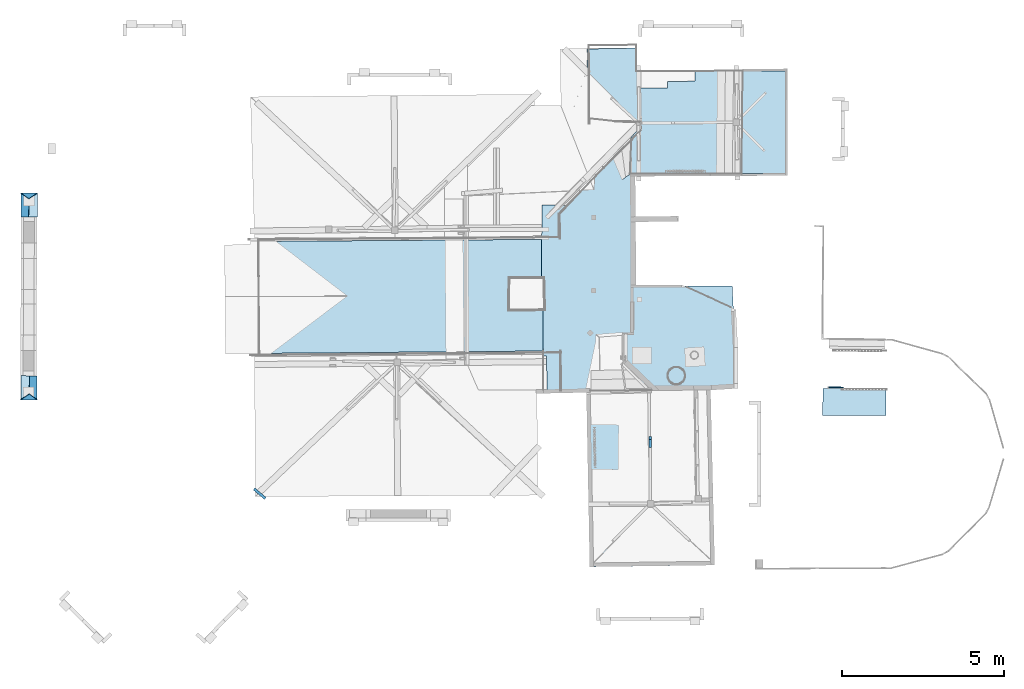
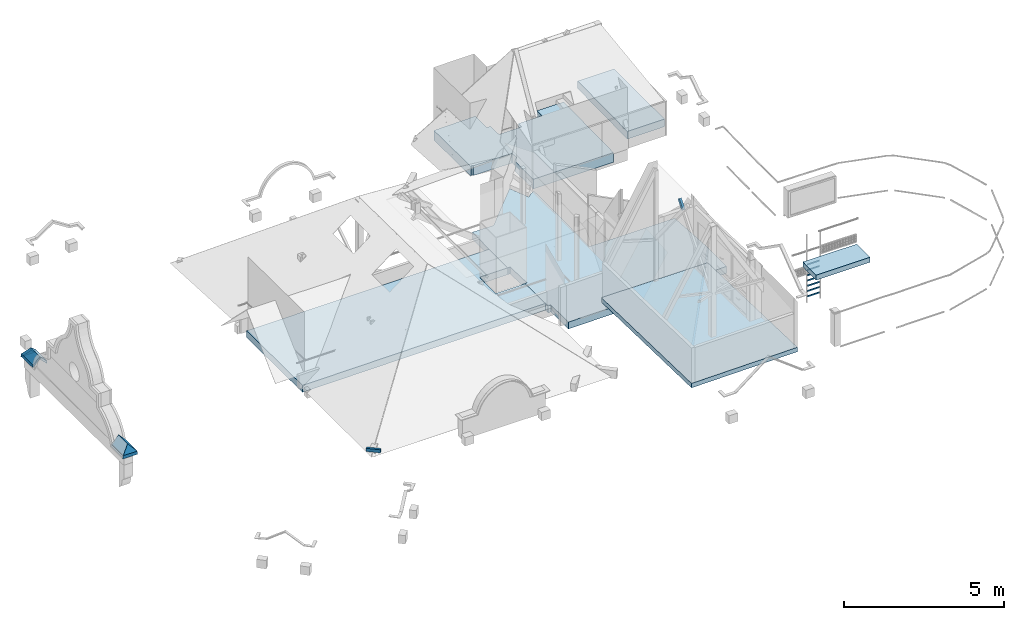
# One storey, part 6 of 39: 12 slabs, 9 beams, 2 elements without a shape of their own.
"""IFC2X3 building model written with IfcOpenShell, lengths in centimetres."""

import ifcopenshell
import ifcopenshell.guid

model = None  # the IFC model being written
_history = None  # IfcOwnerHistory: only IFC2X3 demands one
_inside = {}  # id of a spatial element -> (the spatial element, [elements in it])
_under = {}  # id of a project, library or spatial element -> (it, [spatial elements below it])
_declared = {}  # id of a project -> (the project, [libraries it declares])
_typed = {}  # id of a type object -> (the type object, [elements of that type])
_made_of = {}  # id of a material, layer set ... -> (it, [elements and type objects made of it])


def new_model(schema):
    """Start an empty IFC model of exactly this schema.

    Asked for "IFC4X3", IfcOpenShell would pick the latest addendum, in which some entities
    have other attributes; the version numbers below select the first issue.
    IFC2X3 requires an IfcOwnerHistory on every rooted entity: one is made here for all.
    """
    global model, _history
    if schema == "IFC4X3":
        model = ifcopenshell.file(schema_version=(4, 3, 0, 0))
    else:
        model = ifcopenshell.file(schema=schema)
    _inside.clear()
    _under.clear()
    _declared.clear()
    _typed.clear()
    _made_of.clear()
    _history = None
    if model.schema == "IFC2X3":
        org = make("IfcOrganization", Name="unknown")
        user = make(
            "IfcPersonAndOrganization",
            ThePerson=make("IfcPerson", FamilyName="unknown"),
            TheOrganization=org,
        )
        app = make(
            "IfcApplication",
            ApplicationDeveloper=org,
            Version="unknown",
            ApplicationFullName="unknown",
            ApplicationIdentifier="unknown",
        )
        _history = make(
            "IfcOwnerHistory",
            OwningUser=user,
            OwningApplication=app,
            ChangeAction="ADDED",
            CreationDate=0,
        )
    return model


def make(cls, **values):
    """One entity of the class cls with the attributes given. An attribute that is None is left unset."""
    return model.create_entity(
        cls, **{name: value for name, value in values.items() if value is not None}
    )


def entity(cls, *values):
    """Any entity or typed value of the class cls, its attributes in the order of the schema. None: left unset."""
    e = model.create_entity(cls)
    for i, value in enumerate(values):
        if value is not None:
            e[i] = value
    return e


def rooted(cls, **values):
    """An entity with a GlobalId (a new one), such as an element, a storey or a relation."""
    return make(cls, GlobalId=ifcopenshell.guid.new(), OwnerHistory=_history, **values)


def si_unit(unit_type, name, prefix=None):
    """IfcSIUnit, for example si_unit("LENGTHUNIT", "METRE", prefix="MILLI")."""
    return make("IfcSIUnit", UnitType=unit_type, Prefix=prefix, Name=name)


def converted_unit(unit_type, name, factor, base, dimensions=None, offset=None):
    """IfcConversionBasedUnit, such as the inch: factor (a typed value) times the base unit."""
    return make(
        "IfcConversionBasedUnit"
        if offset is None
        else "IfcConversionBasedUnitWithOffset",
        ConversionOffset=offset,
        Dimensions=None
        if dimensions is None
        else entity("IfcDimensionalExponents", *dimensions),
        UnitType=unit_type,
        Name=name,
        ConversionFactor=make(
            "IfcMeasureWithUnit", ValueComponent=factor, UnitComponent=base
        ),
    )


def assignment(units):
    """IfcUnitAssignment: the units of a project."""
    return None if units is None else make("IfcUnitAssignment", Units=units)


def point(xyz):
    """IfcCartesianPoint."""
    return None if xyz is None else make("IfcCartesianPoint", Coordinates=xyz)


def direction(xyz):
    """IfcDirection."""
    return None if xyz is None else make("IfcDirection", DirectionRatios=xyz)


def frame(location, z_axis=None, x_axis=None):
    """IfcAxis2Placement3D, a coordinate frame: its origin and axes. An axis left out is left unset."""
    return make(
        "IfcAxis2Placement3D",
        Location=point(location),
        Axis=direction(z_axis),
        RefDirection=direction(x_axis),
    )


def frame_2d(location, x_axis=None):
    """IfcAxis2Placement2D, a coordinate frame in the plane: its origin and x axis."""
    return make(
        "IfcAxis2Placement2D", Location=point(location), RefDirection=direction(x_axis)
    )


def origin():
    """The frame at (0, 0, 0) with its axes left unset."""
    return frame((0.0, 0.0, 0.0))


def origin_with_axes():
    """The frame at (0, 0, 0) with the z axis (0, 0, 1) and the x axis (1, 0, 0) written out."""
    return frame((0.0, 0.0, 0.0), z_axis=(0.0, 0.0, 1.0), x_axis=(1.0, 0.0, 0.0))


def origin_2d_with_axis():
    """The frame at (0, 0) in the plane with the x axis (1, 0) written out."""
    return frame_2d((0.0, 0.0), x_axis=(1.0, 0.0))


def place(relative_to, where):
    """IfcLocalPlacement: puts the frame where relative to a parent placement (None: the world)."""
    return make(
        "IfcLocalPlacement", PlacementRelTo=relative_to, RelativePlacement=where
    )


def context(
    kind, dimensions, precision=None, world=None, true_north=None, identifier=None
):
    """IfcGeometricRepresentationContext, for example the 3D "Model" context."""
    return make(
        "IfcGeometricRepresentationContext",
        ContextIdentifier=identifier,
        ContextType=kind,
        CoordinateSpaceDimension=dimensions,
        Precision=precision,
        WorldCoordinateSystem=world,
        TrueNorth=true_north,
    )


def subcontext(parent, identifier, kind, view, scale=None):
    """IfcGeometricRepresentationSubContext, for example "Body" below "Model"."""
    return make(
        "IfcGeometricRepresentationSubContext",
        ContextIdentifier=identifier,
        ContextType=kind,
        ParentContext=parent,
        TargetScale=scale,
        TargetView=view,
    )


def project(units=None, contexts=None):
    """IfcProject with its units and contexts."""
    return rooted(
        "IfcProject",
        Name="project",
        RepresentationContexts=contexts,
        UnitsInContext=assignment(units),
    )


def spatial(cls, under=None, at=None, **own):
    """A site, building, storey or space (cls), placed at a placement, below another one or the project."""
    s = rooted(cls, ObjectPlacement=at, **own)
    if under is not None:
        _under.setdefault(under.id(), (under, []))[1].append(s)
    return s


def polyline(points):
    """IfcPolyline through the points."""
    return make("IfcPolyline", Points=[point(p) for p in points])


def circle_curve(where, radius):
    """IfcCircle in the frame where."""
    return make("IfcCircle", Position=where, Radius=radius)


def trimmed(basis, trim1, trim2, sense, master):
    """IfcTrimmedCurve: the piece of a basis curve between two trims."""
    return make(
        "IfcTrimmedCurve",
        BasisCurve=basis,
        Trim1=trim1,
        Trim2=trim2,
        SenseAgreement=sense,
        MasterRepresentation=master,
    )


def segment(curve, same_sense, transition):
    """IfcCompositeCurveSegment."""
    return make(
        "IfcCompositeCurveSegment",
        Transition=transition,
        SameSense=same_sense,
        ParentCurve=curve,
    )


def composite_curve(segments, self_intersect=None):
    """IfcCompositeCurve: segments joined end to end."""
    return make("IfcCompositeCurve", Segments=segments, SelfIntersect=self_intersect)


def profile(cls, at=None, kind="AREA", **sizes):
    """A parametric profile (cls). Its sizes go by their IFC names, for example OverallWidth=200.0."""
    return make(cls, ProfileType=kind, Position=at, **sizes)


def rectangle(**sizes):
    """IfcRectangleProfileDef."""
    return profile("IfcRectangleProfileDef", **sizes)


def hollow_rectangle(**sizes):
    """IfcRectangleHollowProfileDef."""
    return profile("IfcRectangleHollowProfileDef", **sizes)


def outline(outer, holes=None, kind="AREA"):
    """IfcArbitraryClosedProfileDef: a profile drawn as a closed curve; with holes, ...WithVoids."""
    if holes is None:
        return make("IfcArbitraryClosedProfileDef", ProfileType=kind, OuterCurve=outer)
    return make(
        "IfcArbitraryProfileDefWithVoids",
        ProfileType=kind,
        OuterCurve=outer,
        InnerCurves=holes,
    )


def extrude(swept, where, along, depth):
    """IfcExtrudedAreaSolid: the profile swept, set in the frame where, extruded along a direction by depth."""
    return make(
        "IfcExtrudedAreaSolid",
        SweptArea=swept,
        Position=where,
        ExtrudedDirection=direction(along),
        Depth=depth,
    )


def faces_of(points, faces, orient=None, outer=None):
    """IfcFace entities. A face is a list of loops; a loop is a list of indices into points, from 0.

    orient and outer hold one flag for each loop. By default every Orientation is true, the
    first loop of a face is its IfcFaceOuterBound and the others are IfcFaceBound.
    """
    made = []
    for i, loops in enumerate(faces):
        bounds = []
        for j, loop in enumerate(loops):
            is_outer = j == 0 if outer is None else outer[i][j]
            bounds.append(
                make(
                    "IfcFaceOuterBound" if is_outer else "IfcFaceBound",
                    Bound=make("IfcPolyLoop", Polygon=[points[k] for k in loop]),
                    Orientation=True if orient is None else orient[i][j],
                )
            )
        made.append(make("IfcFace", Bounds=bounds))
    return made


def faceted_brep(points, faces, orient=None, outer=None, voids=None):
    """IfcFacetedBrep: a solid bounded by flat faces; with voids (closed shells), ...WithVoids."""
    shared = [point(p) for p in points]
    hull = make("IfcClosedShell", CfsFaces=faces_of(shared, faces, orient, outer))
    if voids is None:
        return make("IfcFacetedBrep", Outer=hull)
    return make(
        "IfcFacetedBrepWithVoids",
        Outer=hull,
        Voids=[
            make(cls, CfsFaces=faces_of(shared, fs, o, b)) for cls, fs, o, b in voids
        ],
    )


def shape(context_of_items, identifier, shape_type, items):
    """IfcShapeRepresentation: the items that make up one representation, for example the "Body"."""
    return make(
        "IfcShapeRepresentation",
        ContextOfItems=context_of_items,
        RepresentationIdentifier=identifier,
        RepresentationType=shape_type,
        Items=items,
    )


def source(mapping_origin, context_of_items, identifier, shape_type, items):
    """IfcRepresentationMap: a shape defined once, which mapped items show again and again."""
    return make(
        "IfcRepresentationMap",
        MappingOrigin=mapping_origin,
        MappedRepresentation=shape(context_of_items, identifier, shape_type, items),
    )


def transform(
    local_origin,
    x_axis=None,
    y_axis=None,
    z_axis=None,
    scale=None,
    scale2=None,
    scale3=None,
    uniform=True,
):
    """IfcCartesianTransformationOperator3D, or its non-uniform kind. x_axis, y_axis, z_axis: its Axis1, 2, 3."""
    if uniform:
        return make(
            "IfcCartesianTransformationOperator3D",
            Axis1=direction(x_axis),
            Axis2=direction(y_axis),
            LocalOrigin=point(local_origin),
            Scale=scale,
            Axis3=direction(z_axis),
        )
    return make(
        "IfcCartesianTransformationOperator3DnonUniform",
        Axis1=direction(x_axis),
        Axis2=direction(y_axis),
        LocalOrigin=point(local_origin),
        Scale=scale,
        Axis3=direction(z_axis),
        Scale2=scale2,
        Scale3=scale3,
    )


def mapped(mapping_source, mapping_target):
    """IfcMappedItem: shows the shape of a source again, moved by a transform."""
    return make(
        "IfcMappedItem", MappingSource=mapping_source, MappingTarget=mapping_target
    )


def material(Name=None, Category=None):
    """IfcMaterial."""
    return make("IfcMaterial", Name=Name, Category=Category)


def layer(
    of_material, thickness, ventilated=None, Name=None, Category=None, Priority=None
):
    """IfcMaterialLayer: one layer of a wall or slab, of a material (None: an air gap)."""
    return make(
        "IfcMaterialLayer",
        Material=of_material,
        LayerThickness=thickness,
        IsVentilated=ventilated,
        Name=Name,
        Category=Category,
        Priority=Priority,
    )


def layer_set(layers, Name=None):
    """IfcMaterialLayerSet."""
    return make("IfcMaterialLayerSet", MaterialLayers=layers, LayerSetName=Name)


def layer_usage(for_layer_set, set_direction, sense, offset, extent=None):
    """IfcMaterialLayerSetUsage: how a layer set lies in its element."""
    return make(
        "IfcMaterialLayerSetUsage",
        ForLayerSet=for_layer_set,
        LayerSetDirection=set_direction,
        DirectionSense=sense,
        OffsetFromReferenceLine=offset,
        ReferenceExtent=extent,
    )


def made_of(thing, what):
    """Note that an element or type object is made of a material, layer set ...; save() writes the relation."""
    if what is not None:
        _made_of.setdefault(what.id(), (what, []))[1].append(thing)
    return thing


def type_object(cls, material=None, **own):
    """A type object (cls), such as IfcWallType, which elements share."""
    return made_of(rooted(cls, **own), material)


def element(
    cls,
    number,
    at=None,
    inside=None,
    cuts=None,
    type_object=None,
    material=None,
    context=None,
    identifier="Body",
    shape_type=None,
    held_by="IfcProductDefinitionShape",
    body=None,
    shapes=None,
    **own,
):
    """One element of the class cls, such as IfcWall. Its Tag is "e" and its number.

    at: its placement. inside: the storey or other place that contains it. cuts: it is an
    opening in that element (IfcRelVoidsElement). A single representation is given by context,
    identifier, shape_type and body (its items); several are given by shapes. held_by: the class
    of the entity that holds the representations. save() writes the other relations.
    """
    e = rooted(cls, Tag="e%d" % number, ObjectPlacement=at, **own)
    if body is not None:
        shapes = [shape(context, identifier, shape_type, body)]
    if shapes is not None:
        e.Representation = make(held_by, Representations=shapes)
    if inside is not None:
        _inside.setdefault(inside.id(), (inside, []))[1].append(e)
    if cuts is not None:
        rooted(
            "IfcRelVoidsElement", RelatingBuildingElement=cuts, RelatedOpeningElement=e
        )
    if type_object is not None:
        _typed.setdefault(type_object.id(), (type_object, []))[1].append(e)
    return made_of(e, material)


def aggregate(whole, parts):
    """IfcRelAggregates: a whole, such as a stair, and the parts it consists of."""
    return rooted("IfcRelAggregates", RelatingObject=whole, RelatedObjects=parts)


def save(model, path):
    """Write the relations noted so far, then the file.

    IfcRelAggregates (storeys below a building ...), IfcRelContainedInSpatialStructure (elements
    in a storey), IfcRelDefinesByType, IfcRelAssociatesMaterial and IfcRelDeclares: one each for
    every whole, place, type object, material and project.
    """
    for whole, parts in _under.values():
        aggregate(whole, parts)
    for where, things in _inside.values():
        rooted(
            "IfcRelContainedInSpatialStructure",
            RelatedElements=things,
            RelatingStructure=where,
        )
    for kind, things in _typed.values():
        rooted("IfcRelDefinesByType", RelatedObjects=things, RelatingType=kind)
    for what, things in _made_of.values():
        rooted("IfcRelAssociatesMaterial", RelatedObjects=things, RelatingMaterial=what)
    for by, libraries in _declared.values():
        rooted("IfcRelDeclares", RelatingContext=by, RelatedDefinitions=libraries)
    model.write(path)


model = new_model("IFC2X3")

# Units and contexts
model_context = context("Model", 3, precision=0.0001, world=origin(), true_north=direction((0.225632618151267, 0.974212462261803, 0.0)))
body_context = subcontext(model_context, "Body", "Model", "MODEL_VIEW")
ifc_project = project(units=[si_unit("LENGTHUNIT", "METRE", prefix="CENTI"), si_unit("AREAUNIT", "SQUARE_METRE", prefix="CENTI"), si_unit("VOLUMEUNIT", "CUBIC_METRE", prefix="CENTI"), converted_unit("PLANEANGLEUNIT", "DEGREE", entity("IfcRatioMeasure", 0.0174532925), si_unit("PLANEANGLEUNIT", "RADIAN"), dimensions=[0, 0, 0, 0, 0, 0, 0])], contexts=[model_context])

# Site, building, storey
site_placement = place(None, origin_with_axes())
site = spatial("IfcSite", under=ifc_project, at=site_placement, Name="Default Site", CompositionType="ELEMENT")
building_placement = place(site_placement, origin_with_axes())
building = spatial("IfcBuilding", under=site, at=building_placement, Name="Default Building", CompositionType="ELEMENT")
storey_placement = place(building_placement, frame((0.0, 0.0, 1088.91037418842), z_axis=(0.0, 0.0, 1.0), x_axis=(1.0, 0.0, 0.0)))
storey = spatial("IfcBuildingStorey", under=building, at=storey_placement, Name="Mezzanine", CompositionType="ELEMENT", Elevation=1088.91037418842)

# Beams
ifc_material_1 = material(Name="Aluminium mat")
beam_type_1 = type_object("IfcBeamType", Name="2X1-5/16", PredefinedType="NOTDEFINED", material=ifc_material_1)
shared_shape_1 = source(origin_with_axes(), body_context, "Body", "SweptSolid", [
    extrude(hollow_rectangle(XDim=2.5, YDim=5.0, WallThickness=0.79, at=origin_2d_with_axis()), origin_with_axes(), (0.0, 0.0, 1.0), 100.0),
])
beam_1_placement = place(storey_placement, frame((1161.49193924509, -342.695610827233, -195.297583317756), z_axis=(0.999987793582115, -0.00494091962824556, 0.0), x_axis=(0.00494091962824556, 0.999987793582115, 0.0)))
element("IfcBeam", 1, at=beam_1_placement, inside=storey, type_object=beam_type_1, material=ifc_material_1, Name="Poutre en Acier 1519636", ObjectType="beam", context=body_context, shape_type="MappedRepresentation", body=[
    mapped(shared_shape_1, transform((-1.25000000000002, 2.49999999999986, 0.0), x_axis=(1.0, 0.0, 0.0), y_axis=(0.0, 1.0, 0.0), z_axis=(0.0, 0.0, -1.0), scale=1.0, scale2=1.0, scale3=0.446328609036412, uniform=False)),
])
beam_2_placement = place(storey_placement, frame((1161.49193924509, -342.695610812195, -175.297583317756), z_axis=(0.99998779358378, -0.00494091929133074, 0.0), x_axis=(0.00494091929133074, 0.99998779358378, 0.0)))
element("IfcBeam", 2, at=beam_2_placement, inside=storey, type_object=beam_type_1, material=ifc_material_1, Name="Poutre en Acier 1519633", ObjectType="beam", context=body_context, shape_type="MappedRepresentation", body=[
    mapped(shared_shape_1, transform((-1.24999999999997, 2.49999999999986, 1.77635683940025e-13), x_axis=(1.0, 0.0, 0.0), y_axis=(0.0, 1.0, 0.0), z_axis=(0.0, 0.0, -1.0), scale=1.0, scale2=1.0, scale3=0.446328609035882, uniform=False)),
])
beam_3_placement = place(storey_placement, frame((1161.49193620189, -342.695610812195, -215.297583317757), z_axis=(0.999987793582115, -0.00494091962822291, 0.0), x_axis=(0.00494091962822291, 0.999987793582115, 0.0)))
element("IfcBeam", 3, at=beam_3_placement, inside=storey, type_object=beam_type_1, material=ifc_material_1, Name="Poutre en Acier 1519644", ObjectType="beam", context=body_context, shape_type="MappedRepresentation", body=[
    mapped(shared_shape_1, transform((-1.25000000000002, 2.49999999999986, -3.5527136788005e-13), x_axis=(1.0, 0.0, 0.0), y_axis=(0.0, 1.0, 0.0), z_axis=(9.71662783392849e-19, 0.0, -1.0), scale=1.0, scale2=1.0, scale3=0.446328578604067, uniform=False)),
])
beam_4_placement = place(storey_placement, frame((1161.49193924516, -342.695610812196, -155.297583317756), z_axis=(0.999987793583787, -0.004940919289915, 0.0), x_axis=(0.004940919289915, 0.999987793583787, -2.44929359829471e-16)))
element("IfcBeam", 4, at=beam_4_placement, inside=storey, type_object=beam_type_1, material=ifc_material_1, Name="Poutre en Acier 1519626", ObjectType="beam", context=body_context, shape_type="MappedRepresentation", body=[
    mapped(shared_shape_1, transform((-1.25000000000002, 2.49999999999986, 0.0), x_axis=(1.0, 4.93038065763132e-32, -4.71716788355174e-50), y_axis=(0.0, 1.0, 0.0), z_axis=(0.0, 2.15752464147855e-34, -1.0), scale=1.0, scale2=1.0, scale3=0.446328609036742, uniform=False)),
])
beam_5_placement = place(storey_placement, frame((1161.49193924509, -342.695610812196, -115.297583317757), z_axis=(0.99998779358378, -0.00494091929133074, 0.0), x_axis=(0.00494091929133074, 0.99998779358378, 0.0)))
element("IfcBeam", 5, at=beam_5_placement, inside=storey, type_object=beam_type_1, material=ifc_material_1, Name="Poutre en Acier 1519599", ObjectType="beam", context=body_context, shape_type="MappedRepresentation", body=[
    mapped(shared_shape_1, transform((-1.24999999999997, 2.50000000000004, 1.77635683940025e-13), x_axis=(1.0, 0.0, 0.0), y_axis=(0.0, 1.0, 0.0), z_axis=(0.0, 0.0, -1.0), scale=1.0, scale2=1.0, scale3=0.446328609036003, uniform=False)),
])
beam_6_placement = place(storey_placement, frame((1161.49193620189, -342.695610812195, -94.2975833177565), z_axis=(0.999987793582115, -0.00494091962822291, 0.0), x_axis=(0.00494091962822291, 0.999987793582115, 0.0)))
element("IfcBeam", 6, at=beam_6_placement, inside=storey, type_object=beam_type_1, material=ifc_material_1, Name="Poutre en Acier 1519623", ObjectType="beam", context=body_context, shape_type="MappedRepresentation", body=[
    mapped(shared_shape_1, transform((-1.25000000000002, 2.49999999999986, -3.5527136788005e-13), x_axis=(1.0, 0.0, 0.0), y_axis=(0.0, 1.0, 0.0), z_axis=(0.0, 0.0, -1.0), scale=1.0, scale2=1.0, scale3=0.446328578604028, uniform=False)),
])
beam_7_placement = place(storey_placement, frame((1161.49193924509, -342.695610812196, -135.297583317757), z_axis=(0.99998779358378, -0.00494091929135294, 0.0), x_axis=(0.00494091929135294, 0.99998779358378, 0.0)))
element("IfcBeam", 7, at=beam_7_placement, inside=storey, type_object=beam_type_1, material=ifc_material_1, Name="Poutre en Acier 1519620", ObjectType="beam", context=body_context, shape_type="MappedRepresentation", body=[
    mapped(shared_shape_1, transform((-1.24999999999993, 2.50000000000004, -1.77635683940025e-13), x_axis=(1.0, 0.0, 0.0), y_axis=(0.0, 1.0, 0.0), z_axis=(9.71662717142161e-19, 0.0, -1.0), scale=1.0, scale2=1.0, scale3=0.446328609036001, uniform=False)),
])
ifc_material_2 = material(Name="Eyong")
beam_type_2 = type_object("IfcBeamType", Name="80x120", PredefinedType="NOTDEFINED", material=ifc_material_2)
shared_shape_2 = source(origin_with_axes(), body_context, "Body", "SweptSolid", [
    extrude(rectangle(XDim=8.0, YDim=12.0, at=origin_2d_with_axis()), origin_with_axes(), (0.0, 0.0, 1.0), 100.0),
])
beam_8_placement = place(storey_placement, frame((-614.22, -682.55, 19.7024166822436), z_axis=(0.762369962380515, -0.64714143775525, 0.0), x_axis=(0.64714143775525, 0.762369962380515, 0.0)))
element("IfcBeam", 8, at=beam_8_placement, inside=storey, type_object=beam_type_2, material=ifc_material_2, Name="Poutre 1717291", ObjectType="beam", context=body_context, shape_type="MappedRepresentation", body=[
    mapped(shared_shape_2, transform((-3.99999999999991, -6.00000000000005, -8.88178419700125e-14), x_axis=(1.0, 0.0, -1.11022302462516e-16), y_axis=(0.0, 1.0, 0.0), z_axis=(-1.22667030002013e-16, 0.0, -1.0), scale=1.0, scale2=1.0, scale3=0.452535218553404, uniform=False)),
])
beam_9_placement = place(storey_placement, frame((567.289034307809, -529.328187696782, 421.724293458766), z_axis=(-3.86938349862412e-17, -0.631918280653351, -0.775035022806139), x_axis=(1.0, 1.28596492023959e-16, -1.54775339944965e-16)))
element("IfcBeam", 9, at=beam_9_placement, inside=storey, type_object=beam_type_2, material=ifc_material_2, Name="Poutre 1873937", ObjectType="beam", context=body_context, shape_type="MappedRepresentation", body=[
    mapped(shared_shape_2, transform((-8.88178419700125e-14, -5.99999999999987, 0.0), x_axis=(1.0, 0.0, 2.46519032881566e-32), y_axis=(-3.69778549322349e-32, 1.0, 0.0), z_axis=(-3.15763540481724e-32, 0.0, -1.0), scale=1.0, scale2=1.0, scale3=0.390353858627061, uniform=False)),
])

# Slabs
ifc_material_3 = material(Name="Carreaux en céramique")
ifc_layer_1 = layer(ifc_material_3, 1.5)
ifc_material_4 = material(Name="Chape ordinaire")
ifc_layer_2 = layer(ifc_material_4, 4.0)
ifc_material_5 = material(Name="Dalle plane terre-cuite-ciment isolée")
ifc_layer_3 = layer(ifc_material_5, 22.5)
ifc_material_6 = material(Name="Enduit intérieur")
ifc_layer_4 = layer(ifc_material_6, 1.0)
ifc_layer_set_1 = layer_set([ifc_layer_1, ifc_layer_2, ifc_layer_3, ifc_layer_4], Name="Plancher en brique-ciment")
ifc_layer_usage_1 = layer_usage(ifc_layer_set_1, "AXIS3", "POSITIVE", 0.0)
slab_type_1 = type_object("IfcSlabType", Name="Plancher en brique-ciment 290", PredefinedType="NOTDEFINED", material=ifc_layer_set_1)
slab_1_placement = place(storey_placement, frame((967.145517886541, 522.161801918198, 81.0000000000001), z_axis=(0.0, 0.0, 1.0), x_axis=(1.0, 0.0, 0.0)))
element("IfcSlab", 10, at=slab_1_placement, inside=storey, type_object=slab_type_1, material=ifc_layer_usage_1, Name="Enveloppe horizontale 1793902", PredefinedType="NOTDEFINED", context=body_context, shape_type="SweptSolid", body=[
    extrude(outline(polyline([(-118.064821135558, -208.020877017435), (-114.721294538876, 107.505811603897), (16.2242858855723, 107.800092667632), (16.5618297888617, -207.285027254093), (-118.064821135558, -208.020877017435)])), origin_with_axes(), (0.0, 0.0, 1.0), 29.0),
])
ifc_material_7 = material(Name="<aucun>")
ifc_layer_5 = layer(ifc_material_7, 19.0)
ifc_layer_set_2 = layer_set([ifc_layer_5], Name="default")
ifc_layer_usage_2 = layer_usage(ifc_layer_set_2, "AXIS3", "POSITIVE", 0.0)
slab_type_2 = type_object("IfcSlabType", Name="default 190", PredefinedType="NOTDEFINED", material=ifc_layer_set_2)
slab_2_placement = place(storey_placement, frame((1246.18568078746, -339.093830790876, -92.0000000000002), z_axis=(0.0, 0.0, 1.0), x_axis=(1.0, 0.0, 0.0)))
element("IfcSlab", 11, at=slab_2_placement, inside=storey, type_object=slab_type_2, material=ifc_layer_usage_2, Name="Dalle 1519592", PredefinedType="NOTDEFINED", context=body_context, shape_type="SweptSolid", body=[
    extrude(outline(polyline([(47.3273027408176, -8.91676250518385), (47.587485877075, -91.1166159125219), (-148.339107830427, -91.5804523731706), (-146.575680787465, -8.38616920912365), (47.3273027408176, -8.91676250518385)])), origin_with_axes(), (0.0, 0.0, 1.0), 19.0),
])
ifc_layer_6 = layer(ifc_material_7, 26.3)
ifc_layer_set_3 = layer_set([ifc_layer_6], Name="default")
ifc_layer_usage_3 = layer_usage(ifc_layer_set_3, "AXIS3", "POSITIVE", 0.0)
slab_type_3 = type_object("IfcSlabType", Name="default 263", PredefinedType="NOTDEFINED", material=ifc_layer_set_3)
slab_3_placement = place(storey_placement, frame((297.270533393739, -1.45953273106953, -26.2999992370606), z_axis=(0.0, 0.0, 1.0), x_axis=(1.0, 0.0, 0.0)))
element("IfcSlab", 12, at=slab_3_placement, inside=storey, type_object=slab_type_3, material=ifc_layer_usage_3, Name="Enveloppe horizontale 224669", PredefinedType="NOTDEFINED", context=body_context, shape_type="SweptSolid", body=[
    extrude(outline(polyline([(156.589466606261, 367.20953273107), (185.861502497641, 297.572925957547), (197.50645970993, 306.779792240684), (216.054970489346, 318.352160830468), (216.929400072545, 232.326312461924), (214.626404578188, -30.9777429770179), (384.988948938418, -30.8245262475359), (522.88503409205, -30.7005084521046), (532.469809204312, -219.389983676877), (531.734063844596, -338.449357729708), (291.561273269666, -344.939696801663), (270.243545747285, -351.46977825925), (-47.2879254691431, -354.095459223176), (-48.3636660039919, -246.355268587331), (-58.4636778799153, -246.363749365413), (-59.735508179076, -105.524468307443), (-52.3041209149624, -105.438506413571), (-55.0491111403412, -3.78280608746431), (-63.4140469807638, -3.78176415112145), (-63.3980043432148, 125.012700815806), (-61.8648063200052, 219.163516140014), (13.640800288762, 217.933945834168), (156.589466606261, 367.20953273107)])), origin_with_axes(), (0.0, 0.0, 1.0), 26.2999992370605),
])
ifc_layer_usage_4 = layer_usage(ifc_layer_set_3, "AXIS3", "POSITIVE", 0.0)
slab_4_placement = place(storey_placement, frame((40.3416533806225, -10.1207905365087, -26.2999992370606), z_axis=(0.0, 0.0, 1.0), x_axis=(1.0, 0.0, 0.0)))
element("IfcSlab", 13, at=slab_4_placement, inside=storey, type_object=slab_type_3, material=ifc_layer_usage_4, Name="Enveloppe horizontale 163039", PredefinedType="NOTDEFINED", context=body_context, shape_type="SweptSolid", body=[
    extrude(outline(polyline([(-683.085519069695, 115.452141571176), (-680.878458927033, -229.325963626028), (198.032786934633, -221.773452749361), (197.514736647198, -202.689842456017), (197.21053886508, -102.516377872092), (196.946173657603, -96.9622336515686), (91.3047132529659, -97.5454628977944), (92.0745381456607, 4.11174236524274), (193.514833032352, 4.87949365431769), (193.529345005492, 121.67364554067), (-683.085519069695, 115.452141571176)])), origin_with_axes(), (0.0, 0.0, 1.0), 26.2999992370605),
])
ifc_layer_7 = layer(ifc_material_7, 17.0)
ifc_layer_set_4 = layer_set([ifc_layer_7], Name="default")
ifc_layer_usage_5 = layer_usage(ifc_layer_set_4, "AXIS3", "POSITIVE", 0.0)
slab_type_4 = type_object("IfcSlabType", Name="default 170", PredefinedType="NOTDEFINED", material=ifc_layer_set_4)
slab_5_placement = place(storey_placement, frame((665.379517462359, -593.164551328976, 30.9999999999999), z_axis=(0.0, 0.0, 1.0), x_axis=(1.0, 0.0, 0.0)))
element("IfcSlab", 14, at=slab_5_placement, inside=storey, type_object=slab_type_4, material=ifc_layer_usage_5, Name="Enveloppe horizontale 198414", PredefinedType="NOTDEFINED", context=body_context, shape_type="SweptSolid", body=[
    extrude(outline(polyline([(88.0175250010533, 240.814919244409), (100.67811116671, -297.684445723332), (-283.750480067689, -302.923731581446), (-294.173500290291, 242.02812468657), (88.0175250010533, 240.814919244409)])), origin_with_axes(), (0.0, 0.0, 1.0), 17.0),
])
ifc_layer_8 = layer(ifc_material_7, 37.0)
ifc_layer_set_5 = layer_set([ifc_layer_8], Name="default")
ifc_layer_usage_6 = layer_usage(ifc_layer_set_5, "AXIS3", "POSITIVE", 0.0)
slab_type_5 = type_object("IfcSlabType", Name="default 370", PredefinedType="NOTDEFINED", material=ifc_layer_set_5)
slab_6_placement = place(storey_placement, frame((618.43940846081, 595.219536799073, 10.9999999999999), z_axis=(0.0, 0.0, 1.0), x_axis=(1.0, 0.0, 0.0)))
element("IfcSlab", 15, at=slab_6_placement, inside=storey, type_object=slab_type_5, material=ifc_layer_usage_6, Name="Enveloppe horizontale 192720", PredefinedType="NOTDEFINED", context=body_context, shape_type="SweptSolid", body=[
    extrude(outline(composite_curve([segment(trimmed(circle_curve(frame_2d((-238.305371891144, -127.382489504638), x_axis=(1.0, 0.0)), 5.21494222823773), [point((-243.048490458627, -125.214898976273))], [point((-233.369021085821, -125.700804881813))], False, "CARTESIAN"), True, "CONTINUOUS"), segment(polyline([(-233.369021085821, -125.700804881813), (-95.56940846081, -127.609536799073), (-94.9615416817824, -153.112822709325), (-110.119755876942, -169.647459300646), (-109.214563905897, -282.574913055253), (180.212431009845, -282.214397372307), (183.643175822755, 34.1386168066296), (87.4272490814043, 34.1801871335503), (87.4884285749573, 3.25191187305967), (2.54494106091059, 2.479524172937), (2.39059153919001, -17.6095367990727), (-79.9848042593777, -18.2590387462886), (-80.669313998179, 33.7409375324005), (-94.2294084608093, 33.7104632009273), (-93.8508397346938, 105.126470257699), (-245.086147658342, 102.423555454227), (-243.048490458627, -125.214898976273)]), True, "CONTINUOUS")], self_intersect=False)), origin_with_axes(), (0.0, 0.0, 1.0), 37.0),
])

# Roof, slabs
roof_1_placement = place(storey_placement, frame((-1343.68401999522, 217.627609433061, 0.0), z_axis=(0.0, 0.0, 1.0), x_axis=(1.0, 0.0, 0.0)))
roof_1 = element("IfcRoof", 16, at=roof_1_placement, inside=storey, Name="Toit 975128", ShapeType="NOTDEFINED")
ifc_layer_9 = layer(ifc_material_7, 7.0)
ifc_layer_set_6 = layer_set([ifc_layer_9], Name="default")
slab_7_placement = place(roof_1_placement, frame((-13.6280997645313, -4.08599695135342, 88.5771656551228), z_axis=(-0.727341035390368, 0.00558651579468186, 0.686253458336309), x_axis=(0.686233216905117, -0.00527077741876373, 0.727362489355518)))
slab_7 = element("IfcSlab", 17, at=slab_7_placement, material=ifc_layer_set_6, Name="Pan 4294966629", PredefinedType="ROOF", context=body_context, shape_type="Brep", body=[
    faceted_brep([(18.4540738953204, -32.9099636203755, -2.35383623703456e-06), (18.4540948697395, 23.445947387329, -2.33661718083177e-06), (-17.2914458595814, 41.0999246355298, -2.0606433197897e-06), (-16.4635962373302, -32.8657915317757, -2.08950960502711e-06), (-23.8829189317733, -32.8657915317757, -6.99996243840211), (-24.6940616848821, 39.6016511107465, -6.99996241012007), (11.2231665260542, 21.8629120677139, -6.99996268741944), (11.2231801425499, -32.9102101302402, -6.99996270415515), (11.2231801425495, -32.9102101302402, -7.00001935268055), (11.2231803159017, 21.8629120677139, -7.00001916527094), (18.4540966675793, 23.445947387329, -2.64418467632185e-05), (18.4540969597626, -32.9099636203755, -2.61791542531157e-05), (11.2231665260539, 21.8629120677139, -7.00000492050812), (-24.6940665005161, 39.601641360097, -7.00001862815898), (-17.2914467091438, 41.0999229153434, 3.20076567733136e-05), (18.4540918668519, 23.4459413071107, -2.01077139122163e-05), (-24.6940616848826, 39.6016511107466, -7.00002580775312), (-23.8829189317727, -32.8657915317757, -6.99996243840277), (-16.4635962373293, -32.8657915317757, 3.54059818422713e-05), (-17.2914458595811, 41.0999246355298, 3.07410498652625e-05), (11.2231801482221, -32.9102056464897, -7.00001935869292), (18.4540738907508, -32.909967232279, -2.34899295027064e-06), (-16.4635962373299, -32.8657915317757, 3.54059825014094e-05)], [[[0, 1, 2, 3]], [[4, 5, 6, 7]], [[8, 9, 10, 11]], [[12, 13, 14, 15]], [[16, 17, 18, 19]], [[4, 20, 21, 22]]]),
])
slab_8_placement = place(roof_1_placement, frame((12.6976303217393, -4.41557820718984, 88.2440386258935), z_axis=(0.709472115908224, -0.00544901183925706, 0.704712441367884), x_axis=(-0.704691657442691, 0.00541229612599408, 0.709493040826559)))
slab_8 = element("IfcSlab", 18, at=slab_8_placement, material=ifc_layer_set_6, Name="Pan 4294966628", PredefinedType="ROOF", context=body_context, shape_type="Brep", body=[
    faceted_brep([(-17.2574452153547, -41.6140631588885, 5.15148276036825e-05), (19.3884119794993, -23.5733288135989, 5.13770600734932e-05), (19.3883807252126, 32.7825814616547, 5.13740918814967e-05), (-18.0687882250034, 32.8312538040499, 5.1513935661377e-05), (-25.1163142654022, 32.8312538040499, -6.99998169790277), (12.1574940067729, 32.7828287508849, -6.99998183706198), (12.1574939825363, -21.9902934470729, -6.99998183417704), (-24.3231143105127, -39.9496406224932, -6.99998169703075), (-24.3231143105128, -39.9496406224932, -6.9999911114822), (12.1574859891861, -21.9902772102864, -7.00000296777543), (19.3884045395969, -23.5733137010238, -1.27804453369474e-05), (-17.2574439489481, -41.6140657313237, 4.96248903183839e-05), (12.1574939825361, -21.990293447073, -7.00001489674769), (12.1574939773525, 32.7828287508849, -7.00001489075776), (19.3884169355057, 32.7825814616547, -2.98220792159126e-05), (19.3884173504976, -23.5733288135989, -2.94316672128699e-05), (12.1574940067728, 32.7828287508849, -7.00001492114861), (-25.1163142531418, 32.8312632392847, -6.9999817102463), (-18.068788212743, 32.8312632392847, 5.77485583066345e-05), (19.3883807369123, 32.7825904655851, 7.57105569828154e-06), (-24.3231143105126, -39.9496406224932, -6.99999111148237), (-17.2574452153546, -41.6140631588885, 5.15148274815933e-05), (-18.0687882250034, 32.8312538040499, 5.77609018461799e-05)], [[[0, 1, 2, 3]], [[4, 5, 6, 7]], [[8, 9, 10, 11]], [[12, 13, 14, 15]], [[16, 17, 18, 19]], [[4, 20, 21, 22]]]),
])
slab_9_placement = place(roof_1_placement, frame((-0.261397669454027, 31.1565677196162, 84.6666666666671), z_axis=(0.0, 0.824532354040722, 0.565814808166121), x_axis=(0.0, -0.565814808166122, 0.824532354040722)))
slab_9 = element("IfcSlab", 19, at=slab_9_placement, material=ifc_layer_set_6, Name="Pan 4294966627", PredefinedType="ROOF", context=body_context, shape_type="Brep", body=[
    faceted_brep([(21.0219928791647, -0.522794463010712, -2.61126189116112e-05), (-10.5109792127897, 25.4398443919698, -2.60757950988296e-05), (-10.5109792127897, -24.9170205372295, -2.60757950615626e-05), (-20.7117142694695, -26.9656083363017, -6.99997686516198), (-20.7117142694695, 27.8618910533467, -6.99997686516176), (13.620744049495, -0.405683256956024, -6.99997690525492), (13.620744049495, -0.405683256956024, -7.00001546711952), (-20.711726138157, 27.8618766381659, -6.99996455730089), (-10.5109925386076, 25.4398282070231, 3.75249363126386e-05), (21.0219920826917, -0.522795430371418, -2.52866742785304e-05), (-20.7117142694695, 27.8618910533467, -6.99997686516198), (-20.7117142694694, -26.9656083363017, -6.9999768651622), (-10.5109792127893, -24.9170205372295, 2.3706026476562e-05), (-10.5109792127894, 25.4398443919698, 2.37060266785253e-05), (13.6207476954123, -0.405687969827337, -7.0000194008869), (21.0220006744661, -0.522804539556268, -3.45233697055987e-05), (-10.5109743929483, -24.917026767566, 1.8505652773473e-05)], [[[0, 1, 2]], [[3, 4, 5]], [[6, 7, 8, 9]], [[10, 11, 12, 13]], [[3, 14, 15, 16]]]),
])
aggregate(roof_1, [slab_7, slab_8, slab_9])

roof_2_placement = place(storey_placement, frame((-1344.04940986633, -345.226147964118, 0.0), z_axis=(0.0, 0.0, 1.0), x_axis=(1.0, 0.0, 0.0)))
roof_2 = element("IfcRoof", 20, at=roof_2_placement, inside=storey, Name="Toit 975127", ShapeType="NOTDEFINED")
slab_10_placement = place(roof_2_placement, frame((13.6280997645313, 4.08599695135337, 86.5771656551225), z_axis=(0.727341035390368, -0.00558651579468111, 0.686253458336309), x_axis=(-0.686233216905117, 0.00527077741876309, 0.727362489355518)))
slab_10 = element("IfcSlab", 21, at=slab_10_placement, material=ifc_layer_set_6, Name="Pan 4294966626", PredefinedType="ROOF", context=body_context, shape_type="Brep", body=[
    faceted_brep([(18.4541302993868, -32.9099659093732, 1.01267749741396e-05), (18.4541512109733, 23.4459570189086, 1.01439939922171e-05), (-17.2914587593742, 41.0999104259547, 1.04199683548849e-05), (-16.4636091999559, -32.8657938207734, 1.03911021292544e-05), (-23.8829318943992, -32.8657938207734, -7.00001540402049), (-24.6940052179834, 39.6016369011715, -7.00001537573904), (11.2232228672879, 21.8629216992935, -7.00001565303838), (11.2232365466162, -32.910212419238, -7.00001566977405), (11.2232365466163, -32.910212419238, -7.00000687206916), (11.2232367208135, 21.8629216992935, -7.00000668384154), (18.4541530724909, 23.4459570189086, -1.39604175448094e-05), (18.4541533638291, -32.9099659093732, -1.36985431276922e-05), (11.223222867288, 21.8629216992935, -6.9999923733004), (-24.6940034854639, 39.6016404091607, -7.00001597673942), (-17.2914569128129, 41.0999141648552, -2.50441908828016e-05), (18.4541482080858, 23.4459509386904, -7.56050624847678e-06), (-24.6940052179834, 39.6016369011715, -7.00001339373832), (-23.8829318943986, -32.8657938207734, -7.00001540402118), (-16.4636091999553, -32.8657938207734, -1.75596367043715e-05), (-17.2914587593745, 41.0999104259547, -2.22911651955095e-05), (11.2232365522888, -32.9102079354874, -7.00000687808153), (18.4541302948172, -32.9099695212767, 1.01316182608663e-05), (-16.4636091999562, -32.8657938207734, -1.75596357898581e-05)], [[[0, 1, 2, 3]], [[4, 5, 6, 7]], [[8, 9, 10, 11]], [[12, 13, 14, 15]], [[16, 17, 18, 19]], [[4, 20, 21, 22]]]),
])
slab_11_placement = place(roof_2_placement, frame((-12.6976303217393, 4.41557820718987, 86.2440386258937), z_axis=(-0.709472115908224, 0.00544901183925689, 0.704712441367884), x_axis=(0.704691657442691, -0.00541229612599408, 0.709493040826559)))
slab_11 = element("IfcSlab", 22, at=slab_11_placement, material=ifc_layer_set_6, Name="Pan 4294966625", PredefinedType="ROOF", context=body_context, shape_type="Brep", body=[
    faceted_brep([(-17.257431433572, -41.6140482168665, -2.73179605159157e-05), (19.3884263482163, -23.5733384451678, -2.74557280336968e-05), (19.3884622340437, 32.7825844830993, -2.74586964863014e-05), (-18.0687744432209, 32.8312687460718, -2.73188524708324e-05), (-25.1162328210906, 32.8312687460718, -6.99999332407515), (12.1575083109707, 32.7828310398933, -6.9999934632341), (12.1575083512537, -21.9903030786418, -6.99999346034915), (-24.3230327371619, -39.949649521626, -6.99999332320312), (-24.3230327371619, -39.949649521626, -7.00000286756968), (12.1575230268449, -21.9903328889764, -6.99998089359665), (19.3884415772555, -23.5733693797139, 9.29373340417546e-06), (-17.2574279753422, -41.6140552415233, -3.24788915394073e-05), (12.1575083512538, -21.9903030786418, -6.99995899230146), (12.1575083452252, 32.7828310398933, -6.99995898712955), (19.3884321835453, 32.7825844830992, 2.69336055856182e-05), (19.3884317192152, -23.5733384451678, 2.64727789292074e-05), (12.1575083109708, 32.7828310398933, -6.9999589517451), (-25.1162328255, 32.8312653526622, -6.99999331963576), (-18.0687744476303, 32.8312653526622, -2.10674468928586e-05), (19.3884622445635, 32.7825925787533, -4.11888590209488e-06), (-24.323032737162, -39.949649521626, -7.00000286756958), (-17.2574314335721, -41.6140482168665, -2.73179604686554e-05), (-18.0687744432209, 32.8312687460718, -2.10718861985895e-05)], [[[0, 1, 2, 3]], [[4, 5, 6, 7]], [[8, 9, 10, 11]], [[12, 13, 14, 15]], [[16, 17, 18, 19]], [[4, 20, 21, 22]]]),
])
slab_12_placement = place(roof_2_placement, frame((0.261397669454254, -31.1565677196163, 82.6666666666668), z_axis=(-7.4005864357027e-16, -0.824532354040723, 0.565814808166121), x_axis=(0.0, 0.565814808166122, 0.824532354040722)))
slab_12 = element("IfcSlab", 23, at=slab_12_placement, material=ifc_layer_set_6, Name="Pan 4294966624", PredefinedType="ROOF", context=body_context, shape_type="Brep", body=[
    faceted_brep([(21.0220284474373, -0.522764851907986, 9.70099574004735e-06), (-10.5110087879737, 25.4397786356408, 9.73781965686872e-06), (-10.5110087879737, -24.9169909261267, 9.73781965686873e-06), (-20.7117438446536, -26.965578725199, -7.00001467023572), (-20.7117438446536, 27.8618252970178, -7.00001467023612), (13.6207796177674, -0.405653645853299, -7.00001471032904), (13.6207796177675, -0.405653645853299, -6.99997965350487), (-20.711726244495, 27.8618466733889, -7.00003292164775), (-10.5109926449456, 25.439798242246, -3.08394106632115e-05), (21.0220276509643, -0.522765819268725, 1.05269404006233e-05), (-20.7117438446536, 27.8618252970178, -7.00001467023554), (-20.711743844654, -26.965578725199, -7.00001467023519), (-10.5110087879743, -24.9169909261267, -1.40990459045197e-05), (-10.511008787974, 25.4397786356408, -1.40990462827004e-05), (13.6207869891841, -0.405663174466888, -6.99998760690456), (21.0220399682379, -0.522779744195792, -2.72938734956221e-06), (-10.5110039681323, -24.9169971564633, -1.92994209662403e-05)], [[[0, 1, 2]], [[3, 4, 5]], [[6, 7, 8, 9]], [[10, 11, 12, 13]], [[3, 14, 15, 16]]]),
])
aggregate(roof_2, [slab_10, slab_11, slab_12])

save(model, "model.ifc")
